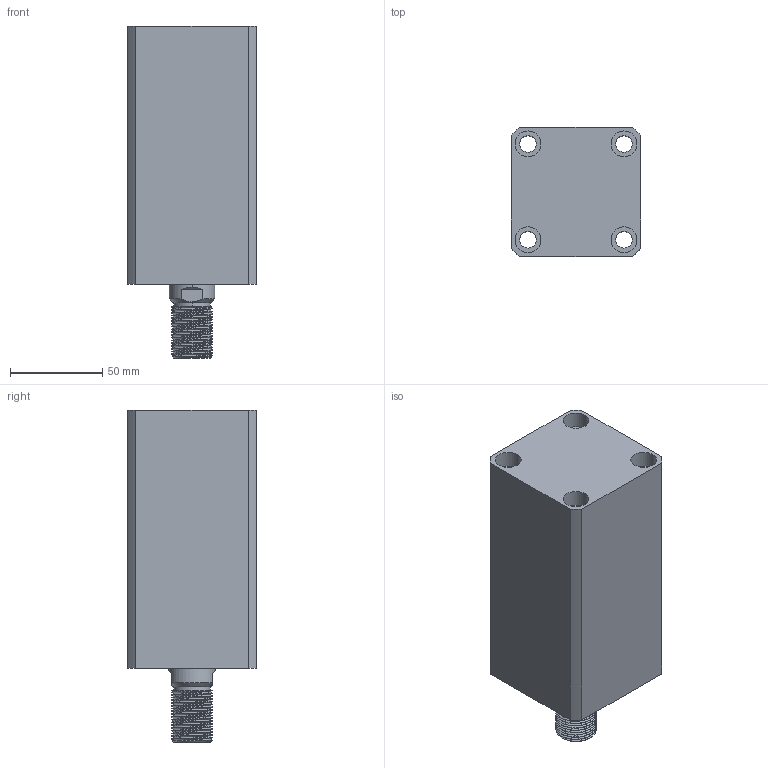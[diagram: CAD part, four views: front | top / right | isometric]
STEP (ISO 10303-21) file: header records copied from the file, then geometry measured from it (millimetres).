
FILE_DESCRIPTION (( 'STEP AP214' ), '1' );
FILE_NAME ('chtb-sd40x85w_asm.STEP', '2018-06-08T06:01:45', ( 'Windows' ), ( 'Microsoft' ), 'SwSTEP 2.0', 'SolidWorks 2015', '' );
FILE_SCHEMA (( 'AUTOMOTIVE_DESIGN' ));
Length unit declared in the file: millimetre
Products named in the file (4): chtb-sd40x85w_asm; CHTB-SD40QG; CHTB-SD40X85WHSG; CHTB-SD40X85NBT
Assembly tree (3 placements, depth 2):
  chtb-sd40x85w_asm
    CHTB-SD40X85NBT
    CHTB-SD40X85WHSG
    CHTB-SD40QG
Bounding box: 70 x 70 x 180 mm (x, y, z)
Volume: 581719.3 mm3; surface area: 112017.4 mm2
Topology: 3 solids, 4 shells, 203 faces, 533 edges, 355 vertices
Faces by surface type: cylinder 118, plane 40, bspline 16, cone 15, torus 14
Entity records: 13425 total; most frequent: CARTESIAN_POINT 8554, ORIENTED_EDGE 1054, DIRECTION 914, EDGE_CURVE 527, AXIS2_PLACEMENT_3D 380, VERTEX_POINT 355, EDGE_LOOP 240, FACE_OUTER_BOUND 203
